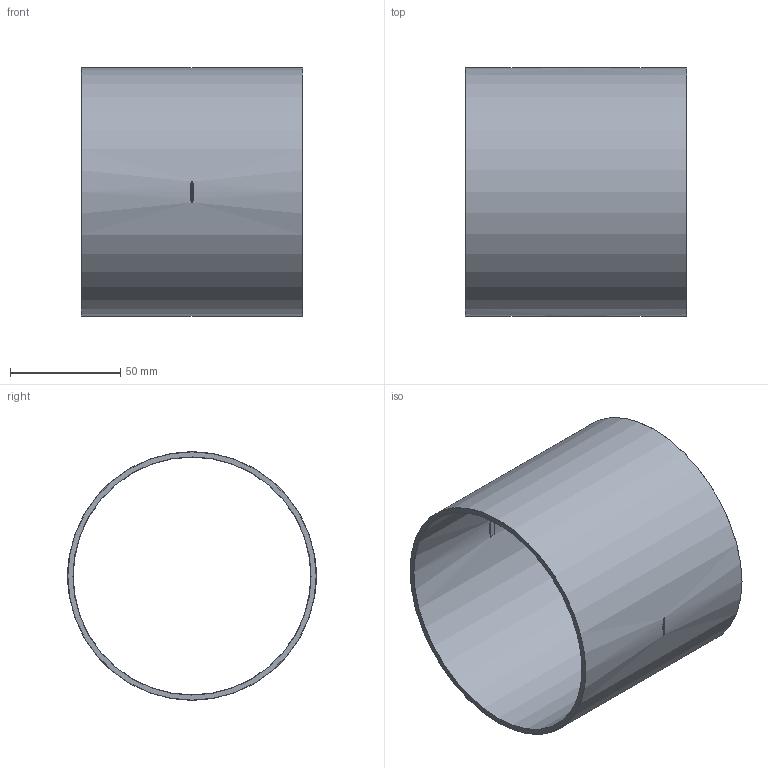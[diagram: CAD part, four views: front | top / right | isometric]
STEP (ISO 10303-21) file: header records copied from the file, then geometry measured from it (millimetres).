
FILE_DESCRIPTION((''),'2;1');
FILE_NAME('G:\SANHA-TERNAT\Technik\Management\Bouwmaten\z-maattekeningen 3D\imate 5000s\15270..._\15270108.stp','2009-10-19T09:10:18',('vdvijverd'),(''),'Autodesk Inventor 2009','Autodesk Inventor 2009','');
FILE_SCHEMA(('AUTOMOTIVE_DESIGN { 1 0 10303 214 1 1 1 1 }'));
Length unit declared in the file: millimetre
Products named in the file (1): 15270108
Bounding box: 100.5 x 113 x 113 mm (x, y, z)
Volume: 87217.6 mm3; surface area: 71434 mm2
Topology: 1 solids, 1 shells, 36 faces, 96 edges, 64 vertices
Faces by surface type: bspline 14, cylinder 10, plane 8, cone 4
Full cylindrical faces by diameter (mm): 108 x1, 113 x1
Entity records: 1450 total; most frequent: CARTESIAN_POINT 639, ORIENTED_EDGE 176, DIRECTION 126, EDGE_CURVE 88, VERTEX_POINT 64, EDGE_LOOP 48, AXIS2_PLACEMENT_3D 47, FACE_OUTER_BOUND 36
